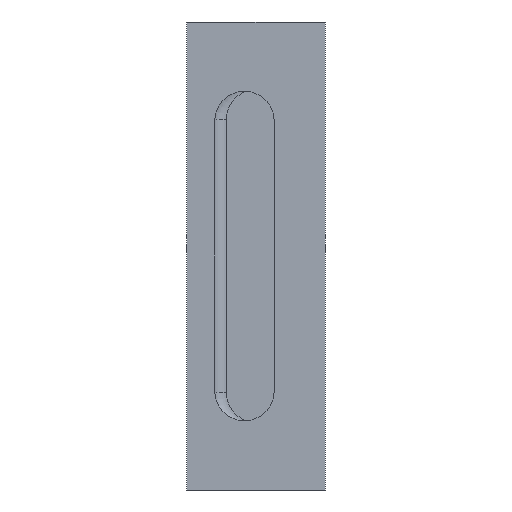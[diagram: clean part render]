
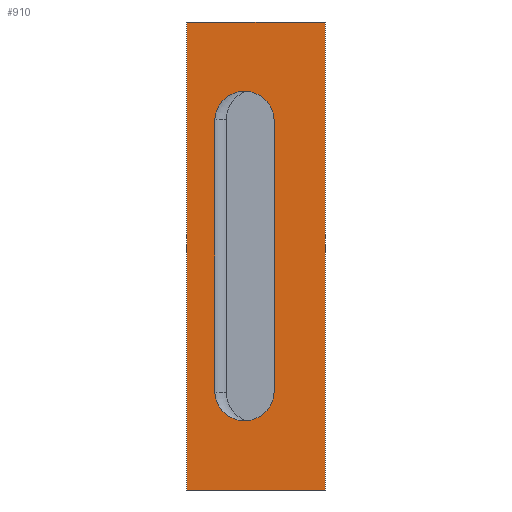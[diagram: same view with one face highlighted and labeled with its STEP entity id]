
A CAD part, front view. The second image highlights one B-rep face of the part: STEP entity #910.
In plain terms, the highlighted planar face has unit normal (0, -1, 0).
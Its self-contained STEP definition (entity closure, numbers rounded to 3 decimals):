
#70 = ORIENTED_EDGE ( 'NONE', *, *, #500, .T. ) ;
#71 = EDGE_CURVE ( 'NONE', #376, #3176, #684, .T. ) ;
#128 = VERTEX_POINT ( 'NONE', #2756 ) ;
#136 = CARTESIAN_POINT ( 'NONE',  ( -12.5, 0., -41. ) ) ;
#179 = ORIENTED_EDGE ( 'NONE', *, *, #3361, .T. ) ;
#249 = VECTOR ( 'NONE', #3455, 1000. ) ;
#259 = EDGE_CURVE ( 'NONE', #263, #128, #831, .T. ) ;
#263 = VERTEX_POINT ( 'NONE', #1899 ) ;
#288 = LINE ( 'NONE', #1925, #2697 ) ;
#376 = VERTEX_POINT ( 'NONE', #3479 ) ;
#483 = CARTESIAN_POINT ( 'NONE',  ( 21., 0., -71. ) ) ;
#495 = DIRECTION ( 'NONE',  ( 0., 1., 0. ) ) ;
#500 = EDGE_CURVE ( 'NONE', #888, #376, #3101, .T. ) ;
#508 = CARTESIAN_POINT ( 'NONE',  ( -3.5, 0., 41. ) ) ;
#589 = CARTESIAN_POINT ( 'NONE',  ( 21., 0., -71. ) ) ;
#684 = LINE ( 'NONE', #136, #1069 ) ;
#825 = EDGE_CURVE ( 'NONE', #1969, #2661, #3290, .T. ) ;
#831 = LINE ( 'NONE', #2228, #1356 ) ;
#888 = VERTEX_POINT ( 'NONE', #1199 ) ;
#896 = DIRECTION ( 'NONE',  ( 1., 0., 0. ) ) ;
#910 = ADVANCED_FACE ( 'NONE', ( #2854, #2021 ), #1746, .T. ) ;
#951 = LINE ( 'NONE', #2097, #249 ) ;
#1003 = CARTESIAN_POINT ( 'NONE',  ( -3.5, 0., -41. ) ) ;
#1009 = EDGE_LOOP ( 'NONE', ( #2324, #1122, #2054, #1440 ) ) ;
#1055 = AXIS2_PLACEMENT_3D ( 'NONE', #1720, #2275, #1450 ) ;
#1069 = VECTOR ( 'NONE', #2274, 1000. ) ;
#1070 = ORIENTED_EDGE ( 'NONE', *, *, #71, .T. ) ;
#1122 = ORIENTED_EDGE ( 'NONE', *, *, #1807, .F. ) ;
#1164 = ORIENTED_EDGE ( 'NONE', *, *, #1508, .T. ) ;
#1199 = CARTESIAN_POINT ( 'NONE',  ( -3.5, 0., -50. ) ) ;
#1266 = CARTESIAN_POINT ( 'NONE',  ( -12.5, 0., 41. ) ) ;
#1270 = DIRECTION ( 'NONE',  ( 0., -1., 0. ) ) ;
#1274 = LINE ( 'NONE', #2341, #2768 ) ;
#1356 = VECTOR ( 'NONE', #896, 1000. ) ;
#1440 = ORIENTED_EDGE ( 'NONE', *, *, #2600, .T. ) ;
#1443 = CARTESIAN_POINT ( 'NONE',  ( -21., 0., -71. ) ) ;
#1444 = AXIS2_PLACEMENT_3D ( 'NONE', #1815, #1270, #3078 ) ;
#1450 = DIRECTION ( 'NONE',  ( 0., 0., 1. ) ) ;
#1472 = AXIS2_PLACEMENT_3D ( 'NONE', #1003, #1854, #1548 ) ;
#1486 = EDGE_CURVE ( 'NONE', #2939, #888, #2595, .T. ) ;
#1508 = EDGE_CURVE ( 'NONE', #3176, #1675, #2533, .T. ) ;
#1548 = DIRECTION ( 'NONE',  ( 0., 0., 1. ) ) ;
#1675 = VERTEX_POINT ( 'NONE', #2860 ) ;
#1720 = CARTESIAN_POINT ( 'NONE',  ( -3.5, 0., -41. ) ) ;
#1746 = PLANE ( 'NONE',  #1444 ) ;
#1807 = EDGE_CURVE ( 'NONE', #1969, #263, #1274, .T. ) ;
#1815 = CARTESIAN_POINT ( 'NONE',  ( 21., 0., -71. ) ) ;
#1854 = DIRECTION ( 'NONE',  ( 0., 1., 0. ) ) ;
#1899 = CARTESIAN_POINT ( 'NONE',  ( -21., 0., 71. ) ) ;
#1925 = CARTESIAN_POINT ( 'NONE',  ( 5.5, 0., 41. ) ) ;
#1955 = ORIENTED_EDGE ( 'NONE', *, *, #1486, .T. ) ;
#1969 = VERTEX_POINT ( 'NONE', #1443 ) ;
#2021 = FACE_BOUND ( 'NONE', #2527, .T. ) ;
#2054 = ORIENTED_EDGE ( 'NONE', *, *, #825, .T. ) ;
#2097 = CARTESIAN_POINT ( 'NONE',  ( 21., 0., -71. ) ) ;
#2228 = CARTESIAN_POINT ( 'NONE',  ( 21., 0., 71. ) ) ;
#2274 = DIRECTION ( 'NONE',  ( 0., 0., 1. ) ) ;
#2275 = DIRECTION ( 'NONE',  ( 0., 1., 0. ) ) ;
#2324 = ORIENTED_EDGE ( 'NONE', *, *, #259, .F. ) ;
#2341 = CARTESIAN_POINT ( 'NONE',  ( -21., 0., -71. ) ) ;
#2468 = DIRECTION ( 'NONE',  ( 1., 0., 0. ) ) ;
#2517 = CARTESIAN_POINT ( 'NONE',  ( 5.5, 0., -41. ) ) ;
#2527 = EDGE_LOOP ( 'NONE', ( #179, #1955, #70, #1070, #1164 ) ) ;
#2533 = CIRCLE ( 'NONE', #3449, 9. ) ;
#2552 = VECTOR ( 'NONE', #2468, 1000. ) ;
#2595 = CIRCLE ( 'NONE', #1472, 9. ) ;
#2600 = EDGE_CURVE ( 'NONE', #2661, #128, #951, .T. ) ;
#2661 = VERTEX_POINT ( 'NONE', #483 ) ;
#2697 = VECTOR ( 'NONE', #2734, 1000. ) ;
#2734 = DIRECTION ( 'NONE',  ( 0., 0., -1. ) ) ;
#2756 = CARTESIAN_POINT ( 'NONE',  ( 21., 0., 71. ) ) ;
#2768 = VECTOR ( 'NONE', #3424, 1000. ) ;
#2854 = FACE_OUTER_BOUND ( 'NONE', #1009, .T. ) ;
#2860 = CARTESIAN_POINT ( 'NONE',  ( 5.5, 0., 41. ) ) ;
#2929 = DIRECTION ( 'NONE',  ( 0., 0., 1. ) ) ;
#2939 = VERTEX_POINT ( 'NONE', #2517 ) ;
#3078 = DIRECTION ( 'NONE',  ( 1., 0., 0. ) ) ;
#3101 = CIRCLE ( 'NONE', #1055, 9. ) ;
#3176 = VERTEX_POINT ( 'NONE', #1266 ) ;
#3290 = LINE ( 'NONE', #589, #2552 ) ;
#3361 = EDGE_CURVE ( 'NONE', #1675, #2939, #288, .T. ) ;
#3424 = DIRECTION ( 'NONE',  ( 0., 0., 1. ) ) ;
#3449 = AXIS2_PLACEMENT_3D ( 'NONE', #508, #495, #2929 ) ;
#3455 = DIRECTION ( 'NONE',  ( 0., 0., 1. ) ) ;
#3479 = CARTESIAN_POINT ( 'NONE',  ( -12.5, 0., -41. ) ) ;
